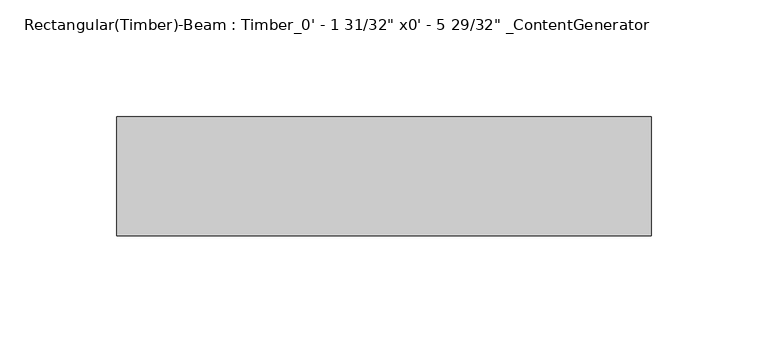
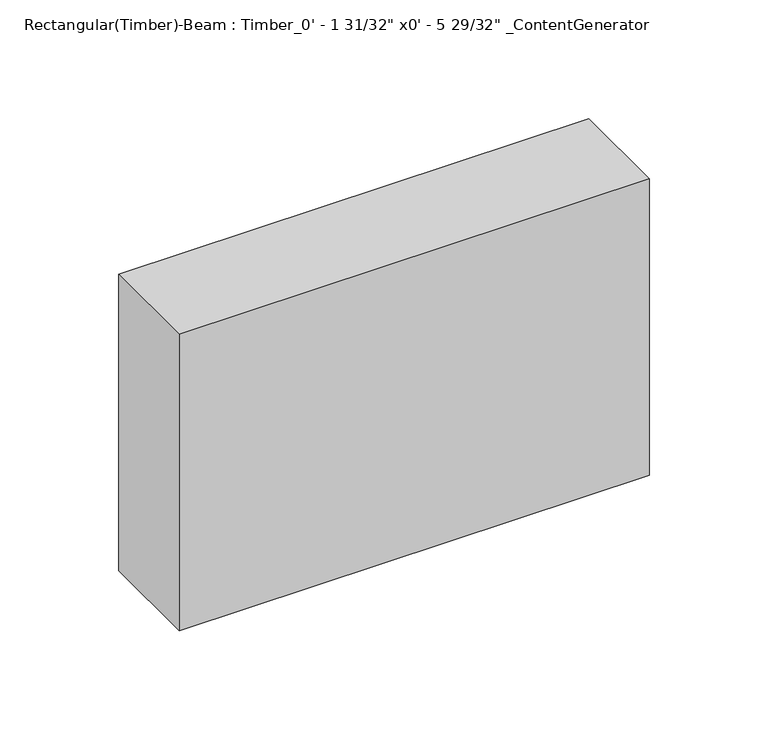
"""IFC4 building model written with IfcOpenShell, lengths in millimetres: beam geometry."""

from ifc_helpers import new_model, si_unit, frame, origin, place, context, project, spatial, polyline, outline, extrude, source, transform, mapped, element, save


def beam_f887e3a5(model_context):
    return source(origin(), model_context, "Body", "SweptSolid", [
        extrude(outline(polyline([(126.9999994, 25.4), (126.9999994, -25.4), (-101.6, -25.4), (-101.6, 25.4), (126.9999994, 25.4)])), frame((0.0, 0.0, -76.2), z_axis=(0.0, 0.0, 1.0), x_axis=(1.0, 0.0, 0.0)), (0.0, 0.0, 1.0), 152.4),
    ])


if __name__ == "__main__":
    model = new_model("IFC4")
    model_context = context("Model", 3, world=origin())
    ifc_project = project(units=[si_unit("LENGTHUNIT", "METRE", prefix="MILLI")], contexts=[model_context])
    site = spatial("IfcSite", under=ifc_project)
    building = spatial("IfcBuilding", under=site)
    placement = place(None, origin())
    beam_shape = beam_f887e3a5(model_context)
    element("IfcBeam", 1, ObjectType="Rectangular(Timber)-Beam : Timber_0' - 1 31/32\" x0' - 5 29/32\" _ContentGenerator", at=placement, inside=building, context=model_context, shape_type="MappedRepresentation", body=[
        mapped(beam_shape, transform((0.0, 0.0, 0.0), x_axis=(1.0, 0.0, 0.0), y_axis=(0.0, 1.0, 0.0), z_axis=(0.0, 0.0, 1.0))),
    ])
    save(model, "model.ifc")
